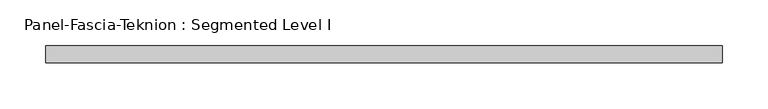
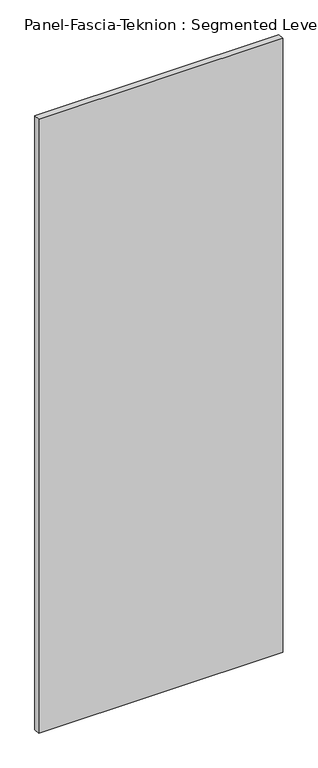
"""IFC4 building model written with IfcOpenShell, lengths in millimetres: proxy geometry, Panel-Fascia-Teknion : Segmented Level I."""

from ifc_helpers import new_model, si_unit, frame, origin, place, context, project, spatial, polyline, outline, extrude, source, transform, mapped, element, save


def panel_fascia_teknion_segmented_level_i_b8129890(model_context):
    return source(origin(), model_context, "Body", "SweptSolid", [
        extrude(outline(polyline([(371.4253906, -9.525), (-371.4253906, -9.525), (-371.4253906, 9.525), (371.4253906, 9.525), (371.4253906, -9.525)])), frame((0.0, 0.0, 3.175), z_axis=(0.0, 0.0, 1.0), x_axis=(1.0, 0.0, 0.0)), (0.0, 0.0, 1.0), 1974.85),
    ])


if __name__ == "__main__":
    model = new_model("IFC4")
    model_context = context("Model", 3, world=origin())
    ifc_project = project(units=[si_unit("LENGTHUNIT", "METRE", prefix="MILLI")], contexts=[model_context])
    site = spatial("IfcSite", under=ifc_project)
    building = spatial("IfcBuilding", under=site)
    placement = place(None, origin())
    panel_fascia_teknion_segmented_level_i_shape = panel_fascia_teknion_segmented_level_i_b8129890(model_context)
    element("IfcBuildingElementProxy", 1, Name="Panel-Fascia-Teknion : Segmented Level I", ObjectType="Panel-Fascia-Teknion : Segmented Level I", at=placement, inside=building, context=model_context, shape_type="MappedRepresentation", body=[
        mapped(panel_fascia_teknion_segmented_level_i_shape, transform((0.0, 0.0, 0.0), x_axis=(1.0, 0.0, 0.0), y_axis=(0.0, 1.0, 0.0), z_axis=(0.0, 0.0, 1.0))),
    ])
    save(model, "model.ifc")
